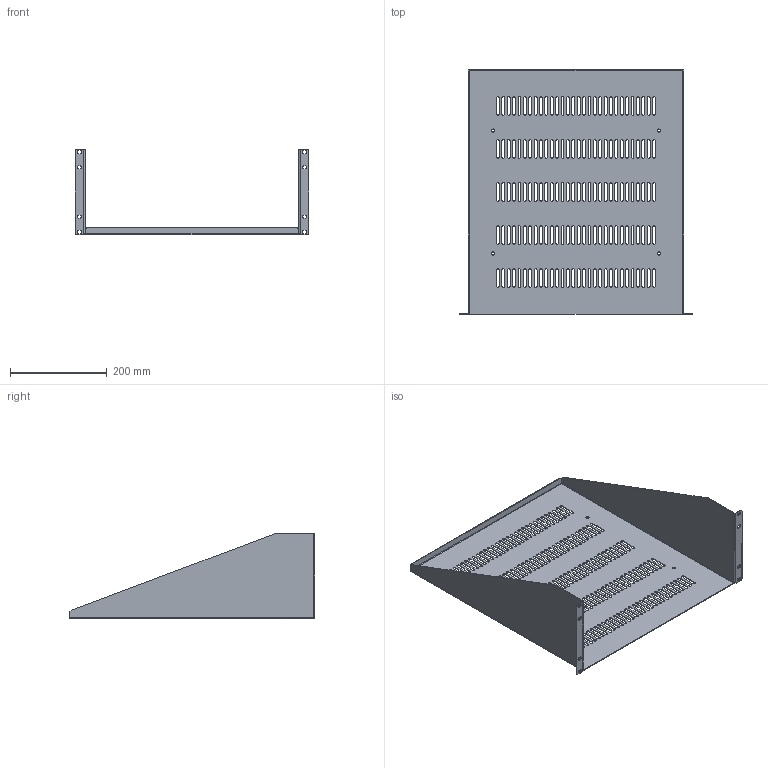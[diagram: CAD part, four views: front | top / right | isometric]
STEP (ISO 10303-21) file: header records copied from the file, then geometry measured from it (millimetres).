
FILE_DESCRIPTION( ( 'Unknown' ), '1' );
FILE_NAME( 'Q:/ACCESSORIES/SHELVES/RK _ RMA/WEB DRAWINGS/STEP/RASV190720.stp', 'Unknown', ( 'Unknown' ), ( 'Unknown' ), 'PSStep 10.1', 'Unknown', ' ' );
FILE_SCHEMA( ( 'AUTOMOTIVE_DESIGN { 1 0 10303 214 1 1 1 1 }' ) );
Length unit declared in the file: millimetre
Products named in the file (1): 1
Bounding box: 482.75 x 508 x 176.99 mm (x, y, z)
Volume: 570432 mm3; surface area: 651619.6 mm2
Topology: 1 solids, 1 shells, 700 faces, 2074 edges, 1376 vertices
Faces by surface type: plane 356, cylinder 340, bspline 4
Full cylindrical faces by diameter (mm): 6.35 x4
Entity records: 24445 total; most frequent: CARTESIAN_POINT 4443, ORIENTED_EDGE 4140, DIRECTION 4124, EDGE_CURVE 2070, AXIS2_PLACEMENT_3D 1377, VERTEX_POINT 1376, LINE 1370, VECTOR 1370
